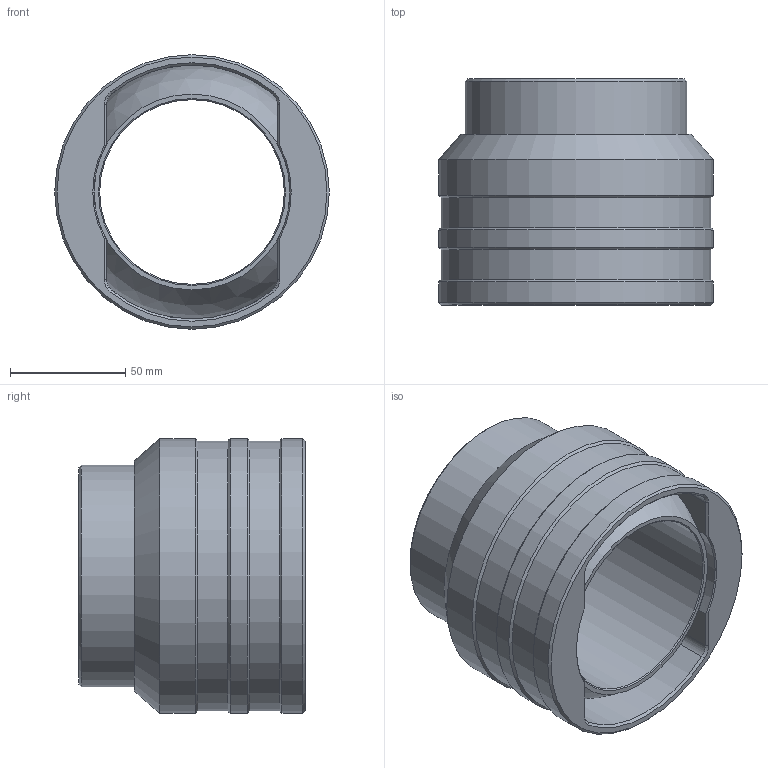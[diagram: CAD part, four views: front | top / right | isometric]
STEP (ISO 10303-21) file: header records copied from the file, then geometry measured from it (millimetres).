
FILE_DESCRIPTION(('STEP AP214'),'1');
FILE_NAME('C:/Projets/Serie 10.xx.xx/10.11.08.step','2011-11-10T15:40:32',(' '),(' '),'Spatial InterOp 3D',' ',' ');
FILE_SCHEMA(('automotive_design'));
Length unit declared in the file: metre
Products named in the file (3): boitier 08; rotule 08; 1
Bounding box: 119 x 98 x 119 mm (x, y, z)
Volume: 423068.2 mm3; surface area: 116095.6 mm2
Topology: 2 solids, 2 shells, 49 faces, 880 edges, 1606 vertices
Faces by surface type: cone 18, cylinder 16, plane 13, sphere 2
Full cylindrical faces by diameter (mm): 80 x1, 85 x1, 96 x1, 117 x2, 119 x3
Entity records: 10997 total; most frequent: CARTESIAN_POINT 1035, DIRECTION 1016, STYLED_ITEM 820, PRESENTATION_STYLE_ASSIGNMENT 820, COLOUR_RGB 820, LINE 790, VECTOR 790, TRIMMED_CURVE 771
